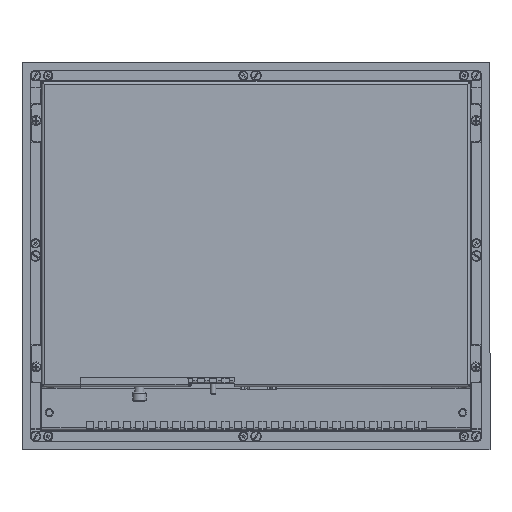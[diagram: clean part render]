
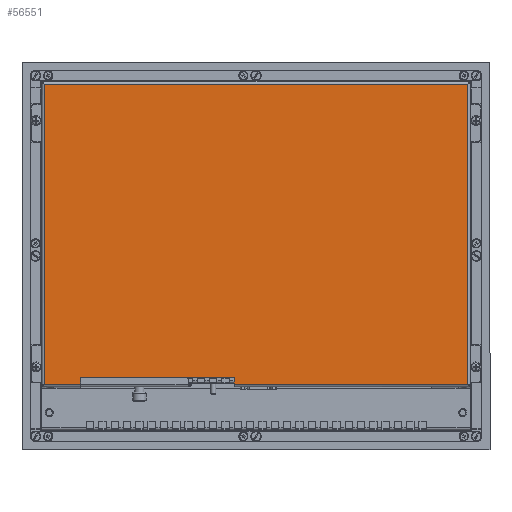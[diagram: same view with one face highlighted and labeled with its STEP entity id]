
A CAD part, top view. The second image highlights one B-rep face of the part: STEP entity #56551.
In plain terms, the highlighted planar face has unit normal (0, 0, 1).
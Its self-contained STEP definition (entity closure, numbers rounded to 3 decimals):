
#51450=CARTESIAN_POINT('',(172.,139.5,59.));
#51451=VERTEX_POINT('',#51450);
#51460=CARTESIAN_POINT('',(172.,-104.25,59.));
#51461=VERTEX_POINT('',#51460);
#51462=CARTESIAN_POINT('',(172.,-104.25,59.));
#51463=DIRECTION('',(0.0,1.0,0.0));
#51464=VECTOR('',#51463,243.75);
#51465=LINE('',#51462,#51464);
#51466=EDGE_CURVE('',#51461,#51451,#51465,.T.);
#51484=CARTESIAN_POINT('',(-172.,139.5,59.));
#51485=VERTEX_POINT('',#51484);
#51486=CARTESIAN_POINT('',(172.,139.5,59.));
#51487=DIRECTION('',(-1.0,0.0,0.0));
#51488=VECTOR('',#51487,344.);
#51489=LINE('',#51486,#51488);
#51490=EDGE_CURVE('',#51451,#51485,#51489,.T.);
#51787=CARTESIAN_POINT('',(-172.,-104.25,59.));
#51788=VERTEX_POINT('',#51787);
#51789=CARTESIAN_POINT('',(-172.,139.5,59.));
#51790=DIRECTION('',(0.0,-1.0,0.0));
#51791=VECTOR('',#51790,243.75);
#51792=LINE('',#51789,#51791);
#51793=EDGE_CURVE('',#51485,#51788,#51792,.T.);
#56454=CARTESIAN_POINT('',(-142.5,-104.25,59.));
#56455=VERTEX_POINT('',#56454);
#56463=CARTESIAN_POINT('',(-172.,-104.25,59.));
#56464=DIRECTION('',(1.0,0.0,0.0));
#56465=VECTOR('',#56464,29.5);
#56466=LINE('',#56463,#56465);
#56467=EDGE_CURVE('',#51788,#56455,#56466,.T.);
#56479=CARTESIAN_POINT('',(-17.5,-104.25,59.));
#56480=VERTEX_POINT('',#56479);
#56490=CARTESIAN_POINT('',(-17.5,-104.25,59.));
#56491=DIRECTION('',(1.0,0.0,0.0));
#56492=VECTOR('',#56491,189.5);
#56493=LINE('',#56490,#56492);
#56494=EDGE_CURVE('',#56480,#51461,#56493,.T.);
#56499=CARTESIAN_POINT('',(0.,17.125,59.));
#56500=DIRECTION('',(0.0,0.0,1.0));
#56501=DIRECTION('',(1.0,0.0,0.0));
#56502=AXIS2_PLACEMENT_3D('',#56499,#56500,#56501);
#56503=PLANE('',#56502);
#56504=CARTESIAN_POINT('',(-142.5,-99.5,59.));
#56505=VERTEX_POINT('',#56504);
#56506=CARTESIAN_POINT('',(-142.5,-104.25,59.));
#56507=DIRECTION('',(0.0,1.0,0.0));
#56508=VECTOR('',#56507,4.75);
#56509=LINE('',#56506,#56508);
#56510=EDGE_CURVE('',#56455,#56505,#56509,.T.);
#56511=ORIENTED_EDGE('',*,*,#56510,.T.);
#56512=CARTESIAN_POINT('',(-141.5,-98.5,59.));
#56513=VERTEX_POINT('',#56512);
#56514=CARTESIAN_POINT('',(-141.5,-99.5,59.));
#56515=DIRECTION('',(0.,0.,1.0));
#56516=DIRECTION('',(-0.707,0.707,0.));
#56517=AXIS2_PLACEMENT_3D('',#56514,#56515,#56516);
#56518=CIRCLE('',#56517,1.0);
#56519=EDGE_CURVE('',#56513,#56505,#56518,.T.);
#56520=ORIENTED_EDGE('',*,*,#56519,.F.);
#56521=CARTESIAN_POINT('',(-18.5,-98.5,59.));
#56522=VERTEX_POINT('',#56521);
#56523=CARTESIAN_POINT('',(-141.5,-98.5,59.));
#56524=DIRECTION('',(1.0,0.0,0.0));
#56525=VECTOR('',#56524,123.);
#56526=LINE('',#56523,#56525);
#56527=EDGE_CURVE('',#56513,#56522,#56526,.T.);
#56528=ORIENTED_EDGE('',*,*,#56527,.T.);
#56529=CARTESIAN_POINT('',(-17.5,-99.5,59.));
#56530=VERTEX_POINT('',#56529);
#56531=CARTESIAN_POINT('',(-18.5,-99.5,59.));
#56532=DIRECTION('',(0.,0.,1.0));
#56533=DIRECTION('',(0.707,0.707,0.));
#56534=AXIS2_PLACEMENT_3D('',#56531,#56532,#56533);
#56535=CIRCLE('',#56534,1.);
#56536=EDGE_CURVE('',#56530,#56522,#56535,.T.);
#56537=ORIENTED_EDGE('',*,*,#56536,.F.);
#56538=CARTESIAN_POINT('',(-17.5,-99.5,59.));
#56539=DIRECTION('',(0.0,-1.0,0.0));
#56540=VECTOR('',#56539,4.75);
#56541=LINE('',#56538,#56540);
#56542=EDGE_CURVE('',#56530,#56480,#56541,.T.);
#56543=ORIENTED_EDGE('',*,*,#56542,.T.);
#56544=ORIENTED_EDGE('',*,*,#56494,.T.);
#56545=ORIENTED_EDGE('',*,*,#51466,.T.);
#56546=ORIENTED_EDGE('',*,*,#51490,.T.);
#56547=ORIENTED_EDGE('',*,*,#51793,.T.);
#56548=ORIENTED_EDGE('',*,*,#56467,.T.);
#56549=EDGE_LOOP('',(#56511,#56520,#56528,#56537,#56543,#56544,#56545,#56546,#56547,#56548));
#56550=FACE_OUTER_BOUND('',#56549,.T.);
#56551=ADVANCED_FACE('',(#56550),#56503,.T.);
